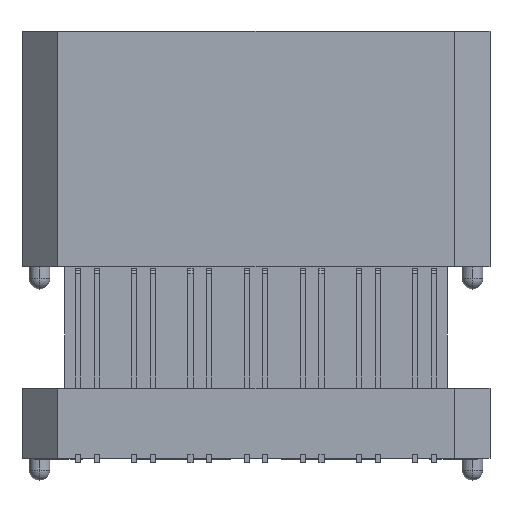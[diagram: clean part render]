
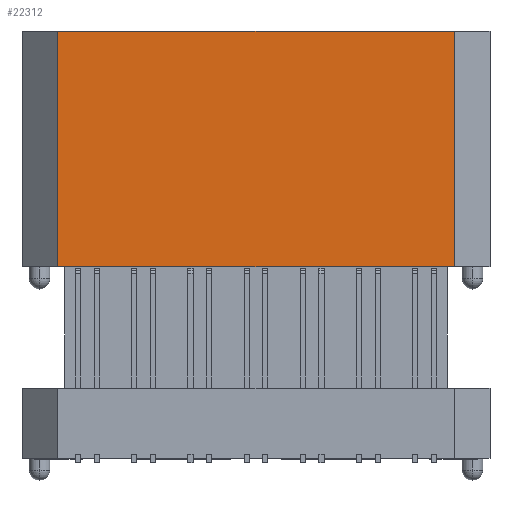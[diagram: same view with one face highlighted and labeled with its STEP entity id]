
A CAD part, front view. The second image highlights one B-rep face of the part: STEP entity #22312.
In plain terms, the highlighted planar face has unit normal (0, -1, 0).
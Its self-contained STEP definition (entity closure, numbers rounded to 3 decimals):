
#88=DIRECTION('',(1.,0.,0.));
#89=VECTOR('',#88,16.952);
#90=CARTESIAN_POINT('',(-8.476,-2.985,0.));
#91=LINE('',#90,#89);
#568=DIRECTION('',(0.,0.,-1.));
#569=VECTOR('',#568,10.06);
#570=CARTESIAN_POINT('',(-8.476,-2.985,0.));
#571=LINE('',#570,#569);
#572=DIRECTION('',(0.,0.,-1.));
#573=VECTOR('',#572,10.06);
#574=CARTESIAN_POINT('',(8.476,-2.985,0.));
#575=LINE('',#574,#573);
#592=DIRECTION('',(1.,0.,0.));
#593=VECTOR('',#592,16.952);
#594=CARTESIAN_POINT('',(-8.476,-2.985,-10.06));
#595=LINE('',#594,#593);
#16644=CARTESIAN_POINT('',(-8.476,-2.985,0.));
#16645=VERTEX_POINT('',#16644);
#16646=CARTESIAN_POINT('',(8.476,-2.985,0.));
#16647=VERTEX_POINT('',#16646);
#16656=CARTESIAN_POINT('',(-8.476,-2.985,-10.06));
#16657=VERTEX_POINT('',#16656);
#16658=CARTESIAN_POINT('',(8.476,-2.985,-10.06));
#16659=VERTEX_POINT('',#16658);
#22299=CARTESIAN_POINT('',(-8.476,-2.985,0.));
#22300=DIRECTION('',(0.,-1.,0.));
#22301=DIRECTION('',(1.,0.,0.));
#22302=AXIS2_PLACEMENT_3D('',#22299,#22300,#22301);
#22303=PLANE('',#22302);
#22304=ORIENTED_EDGE('',*,*,#22029,.T.);
#22306=ORIENTED_EDGE('',*,*,#22305,.T.);
#22308=ORIENTED_EDGE('',*,*,#22307,.F.);
#22309=ORIENTED_EDGE('',*,*,#22291,.F.);
#22310=EDGE_LOOP('',(#22304,#22306,#22308,#22309));
#22311=FACE_OUTER_BOUND('',#22310,.F.);
#22312=ADVANCED_FACE('',(#22311),#22303,.T.);
#22029=EDGE_CURVE('',#16645,#16647,#91,.T.);
#22291=EDGE_CURVE('',#16645,#16657,#571,.T.);
#22305=EDGE_CURVE('',#16647,#16659,#575,.T.);
#22307=EDGE_CURVE('',#16657,#16659,#595,.T.);
